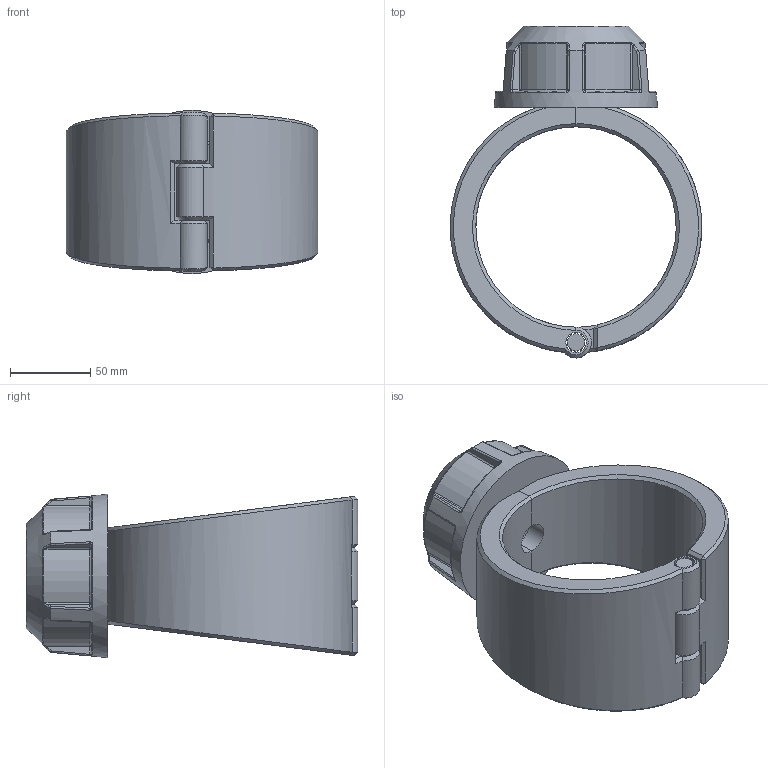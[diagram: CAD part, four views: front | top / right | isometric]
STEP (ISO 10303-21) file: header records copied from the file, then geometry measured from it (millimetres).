
FILE_DESCRIPTION(/* description */ ('Plassadle Threaded 125x1 1/4'''''),/* implementation_level */ '2;1');
FILE_NAME(/* name */ 'C:\Users\comp2\Dropbox\99-16-3568-Processing\Mechanical Fittings\16300\stp\163000125013.stp',/* time_stamp */ '2022-02-03T11:50:52+00:00',/* author */ ('comp2'),/* organization */ (''),/* preprocessor_version */ 'ST-DEVELOPER v17.2',/* originating_system */ 'Autodesk Inventor 2019',/* authorisation */ '');
FILE_SCHEMA (('AUTOMOTIVE_DESIGN { 1 0 10303 214 3 1 1 }'));
Length unit declared in the file: millimetre
Products named in the file (1): 163000125013
Bounding box: 156.99 x 207 x 102 mm (x, y, z)
Volume: 805566 mm3; surface area: 127286.4 mm2
Topology: 4 solids, 4 shells, 203 faces, 486 edges, 293 vertices
Faces by surface type: bspline 58, plane 53, cylinder 47, torus 18, cone 15, sphere 12
Full cylindrical faces by diameter (mm): 10.74 x1, 12.74 x3, 19.476 x1, 33.109 x1, 38.952 x1, 58.428 x1
Entity records: 8238 total; most frequent: CARTESIAN_POINT 3891, ORIENTED_EDGE 972, DIRECTION 781, EDGE_CURVE 486, AXIS2_PLACEMENT_3D 330, VERTEX_POINT 293, EDGE_LOOP 213, FACE_OUTER_BOUND 203
